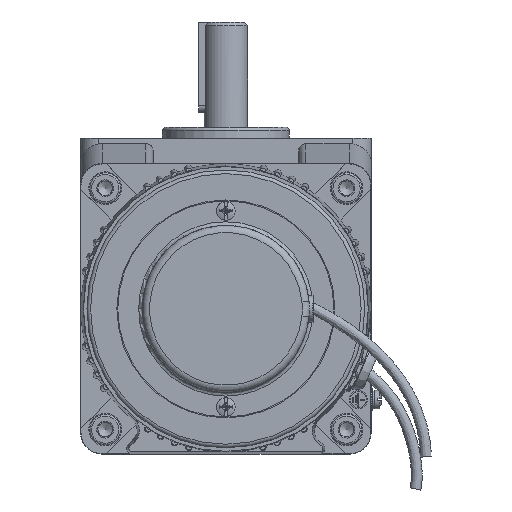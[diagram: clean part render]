
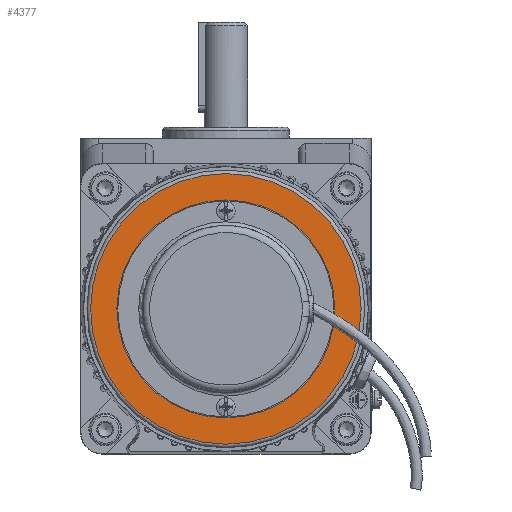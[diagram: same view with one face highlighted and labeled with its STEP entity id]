
A CAD part, left-side view. The second image highlights one B-rep face of the part: STEP entity #4377.
In plain terms, the highlighted planar face has unit normal (-1, 0, 0).
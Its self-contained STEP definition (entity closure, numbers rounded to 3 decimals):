
#3002=PLANE('',#15362);
#4377=ADVANCED_FACE('',(#5176,#5177),#3002,.F.);
#5176=FACE_BOUND('',#5833,.T.);
#5177=FACE_BOUND('',#5834,.T.);
#5833=EDGE_LOOP('',(#8056));
#5834=EDGE_LOOP('',(#8057));
#8056=ORIENTED_EDGE('',*,*,#12871,.F.);
#8057=ORIENTED_EDGE('',*,*,#12853,.T.);
#11255=VERTEX_POINT('',#28869);
#11273=VERTEX_POINT('',#28911);
#12853=EDGE_CURVE('',#11255,#11255,#14422,.T.);
#12871=EDGE_CURVE('',#11273,#11273,#14424,.T.);
#14422=CIRCLE('',#15353,37.25);
#14424=CIRCLE('',#15361,30.);
#15353=AXIS2_PLACEMENT_3D('',#28868,#17316,#17317);
#15361=AXIS2_PLACEMENT_3D('',#28910,#17348,#17349);
#15362=AXIS2_PLACEMENT_3D('',#28912,#17350,#17351);
#17316=DIRECTION('',(-1.,0.,0.));
#17317=DIRECTION('',(0.,0.,-1.));
#17348=DIRECTION('',(-1.,0.,0.));
#17349=DIRECTION('',(0.,0.,1.));
#17350=DIRECTION('',(1.,0.,0.));
#17351=DIRECTION('',(0.,0.,-1.));
#28868=CARTESIAN_POINT('',(-86.,40.,40.));
#28869=CARTESIAN_POINT('',(-86.,40.,2.75));
#28910=CARTESIAN_POINT('',(-86.,40.,40.));
#28911=CARTESIAN_POINT('',(-86.,40.,70.));
#28912=CARTESIAN_POINT('',(-86.,40.,78.25));
